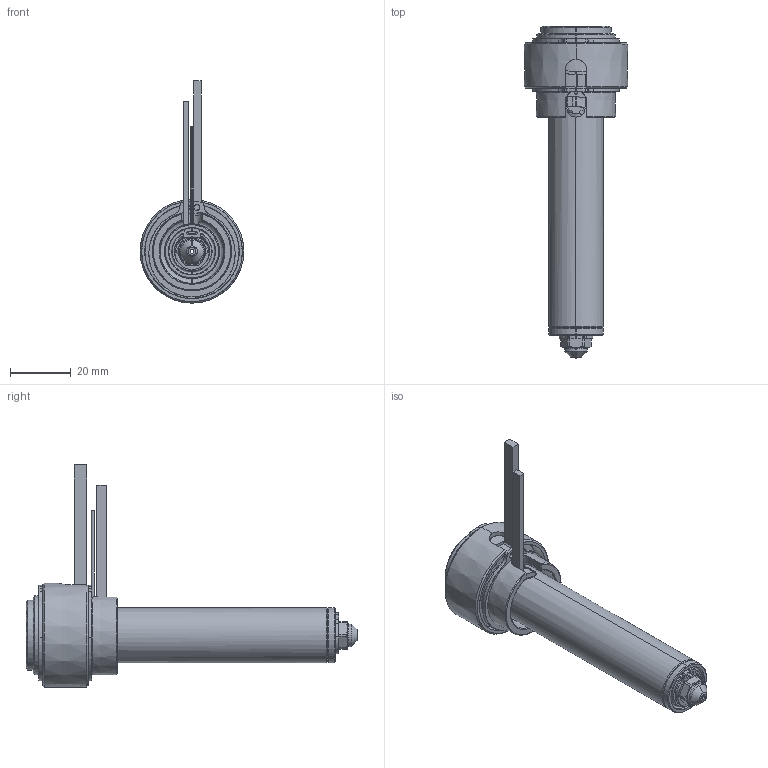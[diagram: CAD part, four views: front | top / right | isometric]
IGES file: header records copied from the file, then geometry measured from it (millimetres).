
Start section: SolidWorks IGES file using analytic representation for surfaces
Global section: file name: C:\Documents and Settings\ws-20\Desktop\TEM\UGER2503-M-A-0 [Øb-1.30 ØC-5.0].IGS; native system: SolidWorks 2012; preprocessor: SolidWorks 2012; author: ws-20; date: 120405.105203; units: millimetre
Bounding box: 34 x 108.9 x 72.9 mm (x, y, z)
Surface area: 24768.6 mm2 (no closed solid volume)
Topology: 0 solids, 0 shells, 189 faces, 2475 edges, 2475 vertices
Faces by surface type: revolution 118, bspline 71
